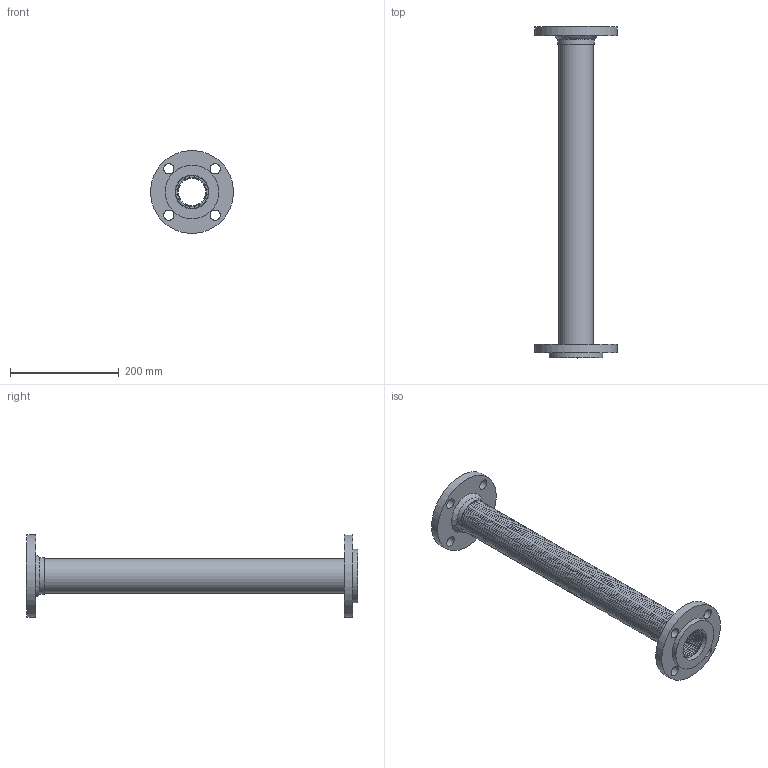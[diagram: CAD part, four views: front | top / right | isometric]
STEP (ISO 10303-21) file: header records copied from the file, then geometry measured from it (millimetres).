
FILE_DESCRIPTION((''),'2;1');
FILE_NAME('C:\REVIT SHARED FILES\STP\FFL2x24ASA150.stp','2013-06-14T14:11:45',('rramoutar'),(''),'Autodesk Inventor 2012','Autodesk Inventor 2012','');
FILE_SCHEMA(('AUTOMOTIVE_DESIGN { 1 0 10303 214 1 1 1 1 }'));
Length unit declared in the file: inch
Products named in the file (8): FFL 2.0 x 24 PER A-30306-3; FFL 2.0 x 24 PER A-30306-3_Welds; A-30302-2 FIXED FLANGE 2 inch 150 #; A-30303-1 FLOATING FLANGE 2 inch 150 #; A-30304-2 FFL WELDED WASHER 2 inch 150 #; A-29781-7 2.0 inch braid collar; FFL 2.0x24 BRAID; FFL 2.0x24 STAINLESS HOSE
Assembly tree (8 placements, depth 2):
  FFL 2.0 x 24 PER A-30306-3
    FFL 2.0 x 24 PER A-30306-3_Welds
    A-30302-2 FIXED FLANGE 2 inch 150 #
    A-30303-1 FLOATING FLANGE 2 inch 150 #
    A-30304-2 FFL WELDED WASHER 2 inch 150 #
    A-29781-7 2.0 inch braid collar  x2
    FFL 2.0x24 BRAID
    FFL 2.0x24 STAINLESS HOSE
Bounding box: 151.82 x 609.6 x 151.82 mm (x, y, z)
Volume: 622516.3 mm3; surface area: 879965.3 mm2
Topology: 8 solids, 8 shells, 930 faces, 1419 edges, 949 vertices
Faces by surface type: plane 460, torus 446, cylinder 22, bspline 1, cone 1
Full cylindrical faces by diameter (mm): 19.05 x8, 61.913 x2, 61.976 x3, 62.687 x1, 66.739 x3, 69.85 x1, 92.075 x1, 98.425 x1, 152.4 x2
Entity records: 19139 total; most frequent: DIRECTION 3746, CARTESIAN_POINT 3006, ORIENTED_EDGE 1874, AXIS2_PLACEMENT_3D 1873, EDGE_LOOP 1867, FACE_BOUND 941, EDGE_CURVE 937, VERTEX_POINT 936
